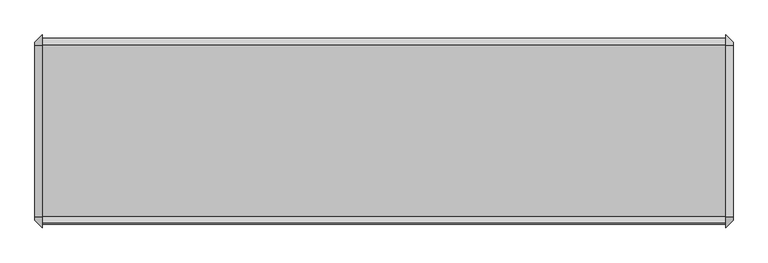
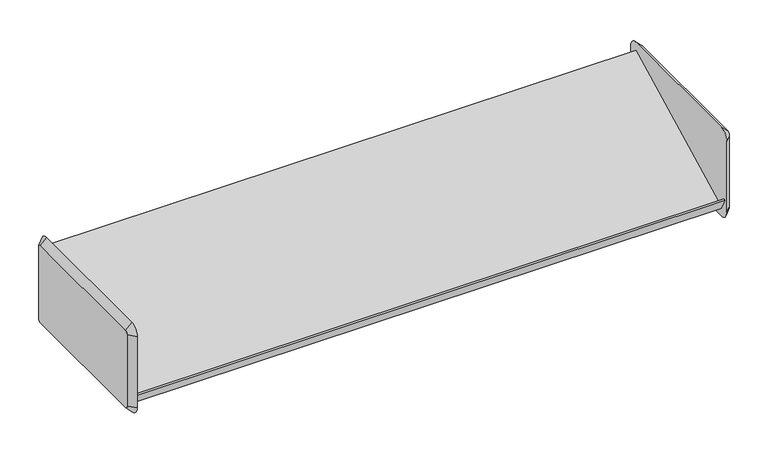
"""IFC4 building model written with IfcOpenShell, lengths in millimetres: furniture geometry."""

from ifc_helpers import new_model, si_unit, frame, origin, place, context, project, spatial, polyline, circle_curve, outline, extrude, source, transform, mapped, element, save
from ifc_brep_helpers import plane_surface, revolved_surface, advanced_brep


def furniture_f611e85c(model_context):
    return source(origin(), model_context, "Body", "SolidModel", [
        advanced_brep(
        [(485.6579955, 161.925, 292.1), (485.6579955, -136.525, 292.1), (485.6579955, -142.875, 285.75), (485.6579955, -142.875, 133.35), (485.6579955, -136.525, 127.0), (485.6579955, 161.925, 127.0), (485.6579955, 168.275, 133.35), (485.6579955, 168.275, 285.75), (472.9579955, 161.925, 304.8), (472.9579955, 180.975, 285.75), (472.9579955, 180.975, 133.35), (472.9579955, 161.925, 114.3), (472.9579955, -136.525, 114.3), (472.9579955, -155.575, 133.35), (472.9579955, -155.575, 285.75), (472.9579955, -136.525, 304.8)],
        [
            (0, 1),
            (1, 2, circle_curve(frame((485.6579955, -136.525, 285.75), z_axis=(1.0, 2.075672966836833e-12, -2.184918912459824e-12), x_axis=(2.1849406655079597e-12, 0.0, 1.0)), 6.35)),
            (2, 3),
            (3, 4, circle_curve(frame((485.6579955, -136.525, 133.35), z_axis=(1.0, 2.063682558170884e-12, 2.0570212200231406e-12), x_axis=(2.06372952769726e-12, -1.0, 0.0)), 6.35)),
            (4, 5),
            (5, 6, circle_curve(frame((485.6579955, 161.925, 133.35), z_axis=(1.0, 2.0889956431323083e-12, -2.0889956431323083e-12), x_axis=(-2.0890080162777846e-12, 0.0, -1.0)), 6.35)),
            (6, 7),
            (7, 0, circle_curve(frame((485.6579955, 161.925, 285.75), z_axis=(1.0, 2.0783375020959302e-12, 1.9717560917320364e-12), x_axis=(-2.0783313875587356e-12, 1.0, 0.0)), 6.35)),
            (8, 9, circle_curve(frame((472.9579955, 161.925, 285.75), z_axis=(-1.0, -2.0783375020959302e-12, -1.9717560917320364e-12), x_axis=(-2.0783313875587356e-12, 1.0, 0.0)), 19.05)),
            (9, 10),
            (10, 11, circle_curve(frame((472.9579955, 161.925, 133.35), z_axis=(-1.0, -2.0889956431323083e-12, 2.0889956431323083e-12), x_axis=(-2.0890080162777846e-12, 0.0, -1.0)), 19.05)),
            (11, 12),
            (12, 13, circle_curve(frame((472.9579955, -136.525, 133.35), z_axis=(-1.0, -2.063682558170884e-12, -2.0570212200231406e-12), x_axis=(2.06372952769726e-12, -1.0, 0.0)), 19.05)),
            (13, 14),
            (14, 15, circle_curve(frame((472.9579955, -136.525, 285.75), z_axis=(-1.0, -2.075672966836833e-12, 2.184918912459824e-12), x_axis=(2.1849406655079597e-12, 0.0, 1.0)), 19.05)),
            (15, 8),
            (15, 1),
            (0, 8),
            (14, 2),
            (13, 3),
            (12, 4),
            (11, 5),
            (10, 6),
            (9, 7),
        ],
        [
            plane_surface(frame((485.6579955, 12.7, 209.55), z_axis=(1.0, 0.0, 0.0), x_axis=(0.0, -1.0, 0.0))),
            plane_surface(frame((472.9579955, 12.7, 209.55), z_axis=(-1.0, 0.0, 0.0), x_axis=(0.0, -1.0, 0.0))),
            plane_surface(frame((472.9579955, 12.7, 304.8), z_axis=(0.7071067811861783, 0.0, 0.7071067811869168), x_axis=(0.0, -1.0, 0.0))),
            revolved_surface(polyline([(485.6579955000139, -136.525, 292.0999999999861), (472.9579955, -136.525, 304.8)]), (492.0079955, -136.525, 285.75), (-1.0, -2.075672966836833e-12, 2.184918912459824e-12)),
            plane_surface(frame((472.9579955, -155.575, 209.55), z_axis=(0.7071067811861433, -0.7071067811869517, 0.0), x_axis=(0.0, 0.0, -1.0))),
            revolved_surface(polyline([(485.65799550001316, -142.87499999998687, 133.35), (472.9579955, -155.575, 133.35)]), (492.0079955, -136.525, 133.35), (-1.0, -2.063682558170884e-12, -2.0570212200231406e-12)),
            plane_surface(frame((472.9579955, 12.7, 114.3), z_axis=(0.7071067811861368, 0.0, -0.7071067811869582), x_axis=(0.0, 1.0, 0.0))),
            revolved_surface(polyline([(485.6579955, 161.925, 127.00000000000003), (472.9579954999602, 161.925, 114.2999999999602)]), (492.0079955, 161.925, 133.35), (-1.0, -2.0889956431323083e-12, 2.0889956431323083e-12)),
            plane_surface(frame((472.9579955, 180.975, 209.55), z_axis=(0.7071067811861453, 0.7071067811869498, 0.0), x_axis=(0.0, 0.0, 1.0))),
            revolved_surface(polyline([(485.6579955, 168.27499999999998, 285.75), (472.95799549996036, 180.97500000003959, 285.75)]), (492.0079955, 161.925, 285.75), (-1.0, -2.0783375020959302e-12, -1.9717560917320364e-12)),
        ],
        [
            (0, [[1, 2, 3, 4, 5, 6, 7, 8]]),
            (1, [[9, 10, 11, 12, 13, 14, 15, 16]]),
            (2, [[-16, 17, -1, 18]]),
            (3, [[-15, 19, -2, -17]]),
            (4, [[-14, 20, -3, -19]]),
            (5, [[-13, 21, -4, -20]]),
            (6, [[-12, 22, -5, -21]]),
            (7, [[-11, 23, -6, -22]]),
            (8, [[-10, 24, -7, -23]]),
            (9, [[-9, -18, -8, -24]]),
        ],
    ),
        advanced_brep(
        [(-733.5420045, -136.525, 292.1), (-733.5420045, 161.925, 292.1), (-733.5420045, 168.275, 285.75), (-733.5420045, 168.275, 133.35), (-733.5420045, 161.925, 127.0), (-733.5420045, -136.525, 127.0), (-733.5420045, -142.875, 133.35), (-733.5420045, -142.875, 285.75), (-720.8420045, -136.525, 304.8), (-720.8420045, -155.575, 285.75), (-720.8420045, -155.575, 133.35), (-720.8420045, -136.525, 114.3), (-720.8420045, 161.925, 114.3), (-720.8420045, 180.975, 133.35), (-720.8420045, 180.975, 285.75), (-720.8420045, 161.925, 304.8)],
        [
            (0, 1),
            (1, 2, circle_curve(frame((-733.5420045, 161.925, 285.75), z_axis=(-1.0, 0.0, 0.0), x_axis=(0.0, 0.0, 1.0)), 6.35)),
            (2, 3),
            (3, 4, circle_curve(frame((-733.5420045, 161.925, 133.35), z_axis=(-1.0, 0.0, 0.0), x_axis=(0.0, 1.0, 0.0)), 6.35)),
            (4, 5),
            (5, 6, circle_curve(frame((-733.5420045, -136.525, 133.35), z_axis=(-1.0, 0.0, 0.0), x_axis=(0.0, 0.0, -1.0)), 6.35)),
            (6, 7),
            (7, 0, circle_curve(frame((-733.5420045, -136.525, 285.75), z_axis=(-1.0, 0.0, 0.0), x_axis=(0.0, -1.0, 0.0)), 6.35)),
            (8, 9, circle_curve(frame((-720.8420045, -136.525, 285.75), z_axis=(1.0, 0.0, 0.0), x_axis=(0.0, -1.0, 0.0)), 19.05)),
            (9, 10),
            (10, 11, circle_curve(frame((-720.8420045, -136.525, 133.35), z_axis=(1.0, 0.0, 0.0), x_axis=(0.0, 0.0, -1.0)), 19.05)),
            (11, 12),
            (12, 13, circle_curve(frame((-720.8420045, 161.925, 133.35), z_axis=(1.0, 0.0, 0.0), x_axis=(0.0, 1.0, 0.0)), 19.05)),
            (13, 14),
            (14, 15, circle_curve(frame((-720.8420045, 161.925, 285.75), z_axis=(1.0, 0.0, 0.0), x_axis=(0.0, 0.0, 1.0)), 19.05)),
            (15, 8),
            (15, 1),
            (0, 8),
            (14, 2),
            (13, 3),
            (12, 4),
            (11, 5),
            (10, 6),
            (9, 7),
        ],
        [
            plane_surface(frame((-733.5420045, 12.7, 209.55), z_axis=(-1.0, 0.0, 0.0), x_axis=(0.0, -1.0, 0.0))),
            plane_surface(frame((-720.8420045, 12.7, 209.55), z_axis=(1.0, 0.0, 0.0), x_axis=(0.0, -1.0, 0.0))),
            plane_surface(frame((-720.8420045, 12.7, 304.8), z_axis=(-0.7071067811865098, 0.0, 0.7071067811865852), x_axis=(0.0, 1.0, 0.0))),
            revolved_surface(polyline([(-733.5420045, 161.925, 292.1), (-720.8420045, 161.925, 304.8)]), (-739.8920045, 161.925, 285.75), (1.0, 0.0, 0.0)),
            plane_surface(frame((-720.8420045, 180.975, 209.55), z_axis=(-0.7071067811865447, 0.7071067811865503, 0.0), x_axis=(0.0, 0.0, -1.0))),
            revolved_surface(polyline([(-733.5420045, 168.27500000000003, 133.35), (-720.8420045, 180.975, 133.35)]), (-739.8920045, 161.925, 133.35), (1.0, 0.0, 0.0)),
            plane_surface(frame((-720.8420045, 12.7, 114.3), z_axis=(-0.7071067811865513, 0.0, -0.7071067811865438), x_axis=(0.0, -1.0, 0.0))),
            revolved_surface(polyline([(-733.5420045, -136.525, 126.99999999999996), (-720.8420045, -136.525, 114.3)]), (-739.8920045, -136.525, 133.35), (1.0, 0.0, 0.0)),
            plane_surface(frame((-720.8420045, -155.575, 209.55), z_axis=(-0.7071067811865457, -0.7071067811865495, 0.0), x_axis=(0.0, 0.0, 1.0))),
            revolved_surface(polyline([(-733.5420045, -142.87500000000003, 285.75), (-720.8420045, -155.575, 285.75)]), (-739.8920045, -136.525, 285.75), (1.0, 0.0, 0.0)),
        ],
        [
            (0, [[1, 2, 3, 4, 5, 6, 7, 8]]),
            (1, [[9, 10, 11, 12, 13, 14, 15, 16]]),
            (2, [[-16, 17, -1, 18]]),
            (3, [[-15, 19, -2, -17]]),
            (4, [[-14, 20, -3, -19]]),
            (5, [[-13, 21, -4, -20]]),
            (6, [[-12, 22, -5, -21]]),
            (7, [[-11, 23, -6, -22]]),
            (8, [[-10, 24, -7, -23]]),
            (9, [[-9, -18, -8, -24]]),
        ],
    ),
        extrude(outline(polyline([(-137.2094993, 131.2179666), (-149.845093, 155.6467844), (-147.0173828, 157.0907216), (-135.8404765, 135.4820334), (162.5893131, 287.8717194), (175.2453599, 264.2470972), (172.4171401, 262.8028998), (161.2606869, 283.6282806), (-137.2094993, 131.2179666)])), frame((-720.8420045, 0.0, 0.0), z_axis=(1.0, 0.0, 0.0), x_axis=(0.0, 1.0, 0.0)), (0.0, 0.0, 1.0), 1193.8),
    ])


if __name__ == "__main__":
    model = new_model("IFC4")
    model_context = context("Model", 3, world=origin())
    ifc_project = project(units=[si_unit("LENGTHUNIT", "METRE", prefix="MILLI")], contexts=[model_context])
    site = spatial("IfcSite", under=ifc_project)
    building = spatial("IfcBuilding", under=site)
    placement = place(None, origin())
    furniture_shape = furniture_f611e85c(model_context)
    element("IfcFurniture", 1, ObjectType="HermanMiller_ActionOffice_A3220_B-StyleStorageDisplay : Display 13\"D x 48\"W", at=placement, inside=building, context=model_context, shape_type="MappedRepresentation", body=[
        mapped(furniture_shape, transform((0.0, 0.0, 0.0), x_axis=(1.0, 0.0, 0.0), y_axis=(0.0, 1.0, 0.0), z_axis=(0.0, 0.0, 1.0))),
    ])
    save(model, "model.ifc")
